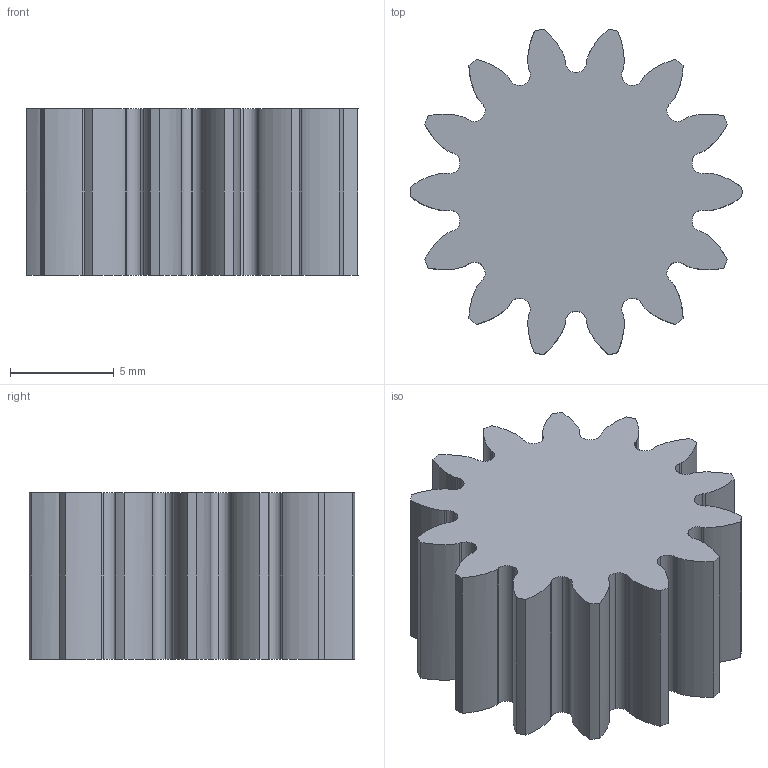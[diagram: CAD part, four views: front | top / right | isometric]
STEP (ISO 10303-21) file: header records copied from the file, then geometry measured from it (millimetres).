
FILE_DESCRIPTION(/* description */ (''),/* implementation_level */ '2;1');
FILE_NAME(/* name */ 'C:/Users/Brandon/Desktop/gears 25deg mod1 fillet.5/14t.step',/* time_stamp */ '2018-01-21T16:00:25-05:00',/* author */ (''),/* organization */ (''),/* preprocessor_version */ 'ST-DEVELOPER v16.13',/* originating_system */ 'Autodesk Translation Framework v6.5.0.72',/* authorisation */ '');
FILE_SCHEMA (('AUTOMOTIVE_DESIGN { 1 0 10303 214 3 1 1 }'));
Length unit declared in the file: millimetre
Products named in the file (5): (Unsaved); Spur Gear (45 teeth); Spur Gear (50 teeth); Spur Gear (42 teeth); Spur Gear (14 teeth)
Assembly tree (4 placements, depth 2):
  (Unsaved)
    Spur Gear (45 teeth)
    Spur Gear (50 teeth)
    Spur Gear (42 teeth)
    Spur Gear (14 teeth)
Bounding box: 16 x 15.7 x 8 mm (x, y, z)
Volume: 1203.6 mm3; surface area: 967.8 mm2
Topology: 1 solids, 1 shells, 114 faces, 336 edges, 224 vertices
Faces by surface type: cylinder 56, plane 30, bspline 28
Entity records: 12014 total; most frequent: CARTESIAN_POINT 8999, ORIENTED_EDGE 672, DIRECTION 582, EDGE_CURVE 336, VERTEX_POINT 224, AXIS2_PLACEMENT_3D 207, LINE 168, VECTOR 168
